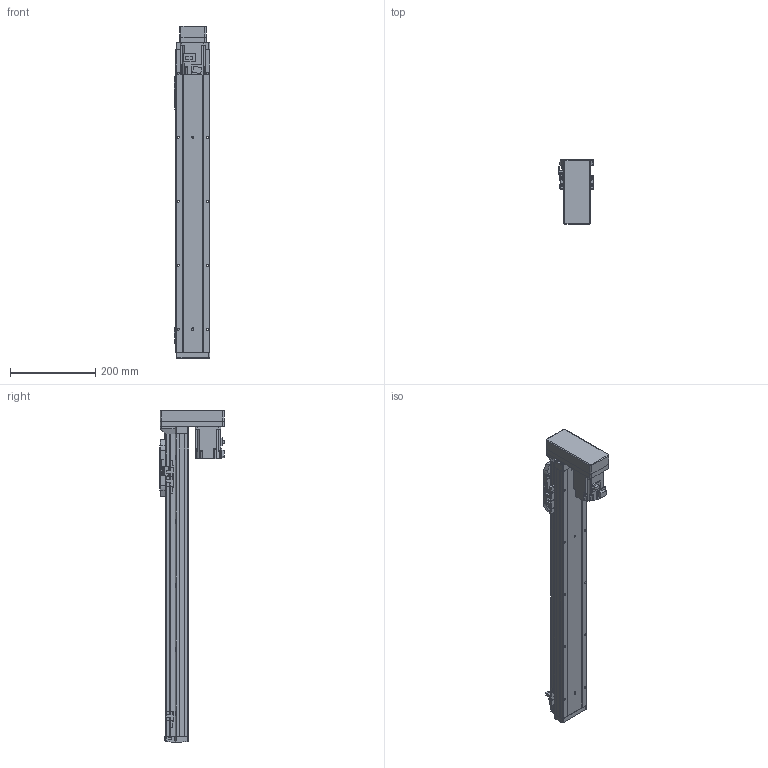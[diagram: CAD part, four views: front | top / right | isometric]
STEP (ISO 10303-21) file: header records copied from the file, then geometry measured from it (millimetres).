
FILE_DESCRIPTION (( 'STEP AP214' ), '1' );
FILE_NAME ('GSH8-550-BM-M20-1.step', '2025-01-07T06:08:40', ( '' ), ( '' ), 'SwSTEP 2.0', 'SolidWorks 2012', '' );
FILE_SCHEMA (( 'AUTOMOTIVE_DESIGN' ));
Length unit declared in the file: millimetre
Products named in the file (5): HG-KR23_200W_Motor; GSH8-BL-011-550-M20; GSH8-550-BM-M20-1; GSH8-GY-004; GSH8-BL-008
Assembly tree (4 placements, depth 2):
  GSH8-550-BM-M20-1
    GSH8-BL-011-550-M20
    GSH8-GY-004
    GSH8-BL-008
    HG-KR23_200W_Motor
Bounding box: 84 x 152.3 x 778.2 mm (x, y, z)
Volume: 2004117.1 mm3; surface area: 490179 mm2
Topology: 4 solids, 8 shells, 1118 faces, 2927 edges, 1882 vertices
Faces by surface type: plane 636, cylinder 386, torus 42, cone 26, bspline 24, sphere 4
Entity records: 44433 total; most frequent: CARTESIAN_POINT 10528, DIRECTION 5939, ORIENTED_EDGE 5838, EDGE_CURVE 2919, AXIS2_PLACEMENT_3D 1997, VECTOR 1945, LINE 1945, VERTEX_POINT 1878
